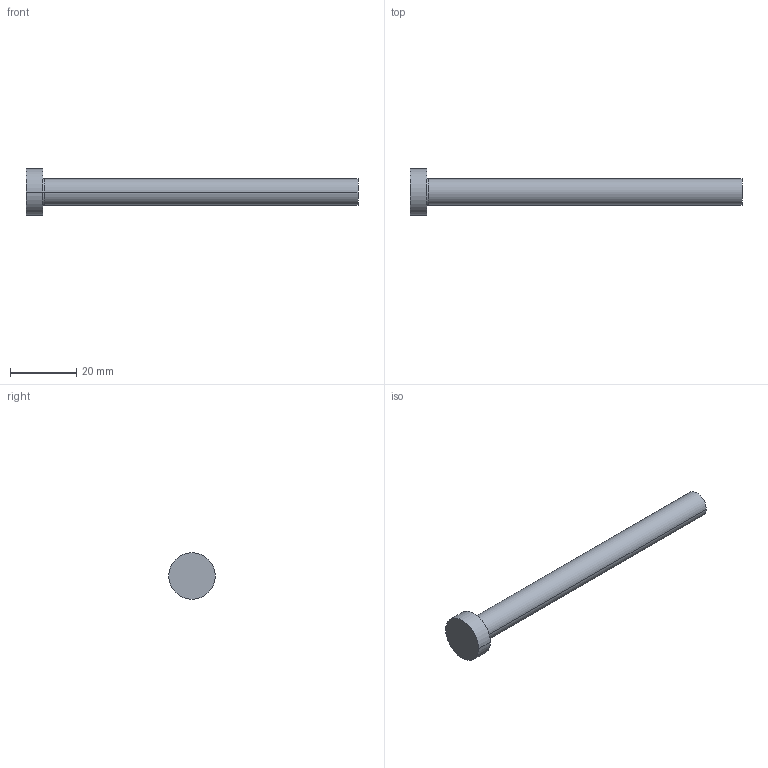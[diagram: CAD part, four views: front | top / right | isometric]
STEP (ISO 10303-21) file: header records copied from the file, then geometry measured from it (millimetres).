
FILE_DESCRIPTION (( 'STEP AP214' ), '1' );
FILE_NAME ('A-8x100.STEP', '2020-05-29T15:52:57', ( 'August' ), ( '' ), 'SwSTEP 2.0', 'SolidWorks 2018', '' );
FILE_SCHEMA (( 'AUTOMOTIVE_DESIGN' ));
Length unit declared in the file: millimetre
Products named in the file (1): A-8x100
Bounding box: 100 x 14 x 14 mm (x, y, z)
Volume: 5546.3 mm3; surface area: 2910.1 mm2
Topology: 1 solids, 1 shells, 9 faces, 16 edges, 10 vertices
Faces by surface type: cylinder 4, plane 3, torus 2
Entity records: 260 total; most frequent: DIRECTION 48, CARTESIAN_POINT 36, ORIENTED_EDGE 32, AXIS2_PLACEMENT_3D 22, EDGE_CURVE 16, CIRCLE 12, EDGE_LOOP 10, VERTEX_POINT 10
